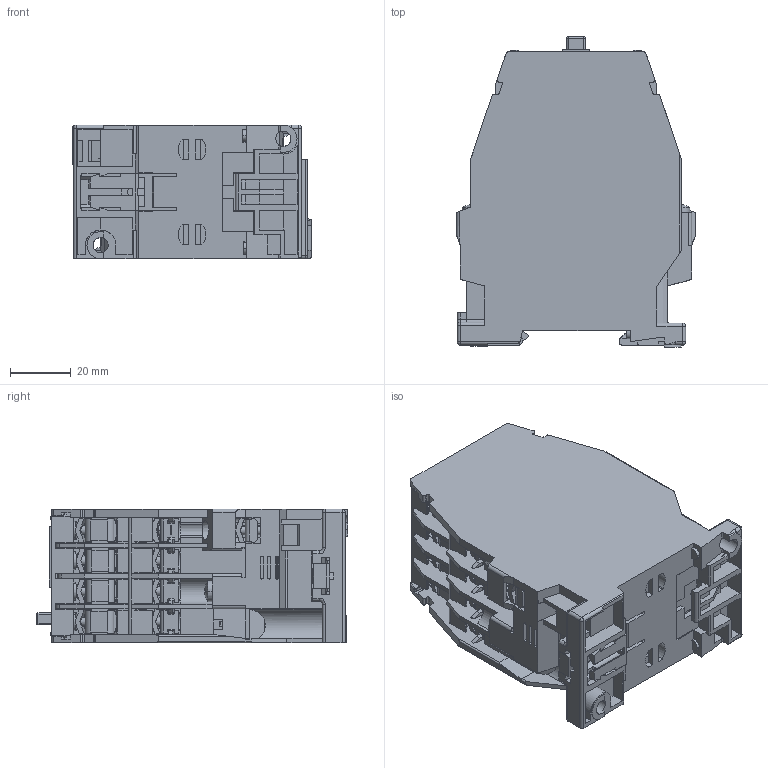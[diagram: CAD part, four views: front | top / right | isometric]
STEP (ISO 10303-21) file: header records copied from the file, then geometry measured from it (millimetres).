
FILE_DESCRIPTION((''),'2;1');
FILE_NAME('31','2025-02-10T',('qinxiong.ji'),(''),'PRO/ENGINEER BY PARAMETRIC TECHNOLOGY CORPORATION, 2015440','PRO/ENGINEER BY PARAMETRIC TECHNOLOGY CORPORATION, 2015440','');
FILE_SCHEMA(('CONFIG_CONTROL_DESIGN'));
Products named in the file (1): 31
Bounding box: 78.5 x 102.2 x 44 mm (x, y, z)
Volume: 187940.9 mm3; surface area: 105506.8 mm2
Topology: 12 solids, 21 shells, 6294 faces, 18369 edges, 11872 vertices
Faces by surface type: plane 4448, cylinder 1269, torus 303, cone 173, sphere 55, bspline 46
Entity records: 228698 total; most frequent: CARTESIAN_POINT 61797, ORIENTED_EDGE 36600, DIRECTION 32949, EDGE_CURVE 18300, VECTOR 13267, LINE 13267, VERTEX_POINT 11872, AXIS2_PLACEMENT_3D 9841
